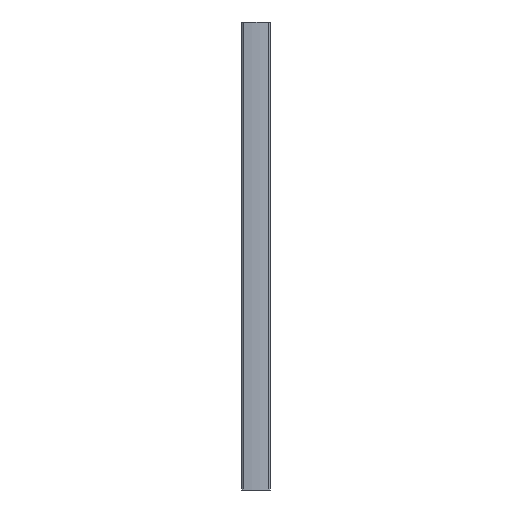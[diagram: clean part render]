
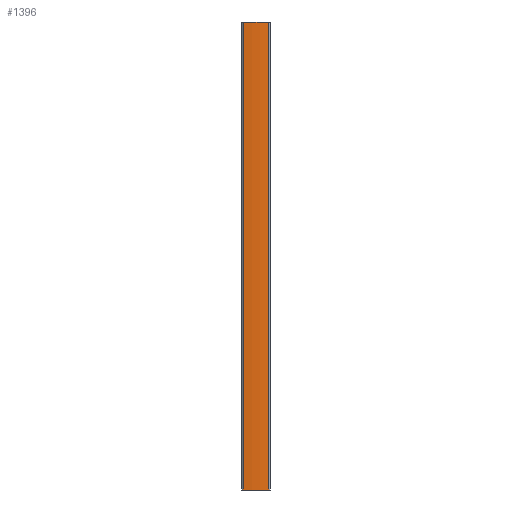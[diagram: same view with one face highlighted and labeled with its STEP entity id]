
A CAD part, left-side view. The second image highlights one B-rep face of the part: STEP entity #1396.
In plain terms, the highlighted cylindrical face has radius 200 mm (diameter 400 mm), a partial arc.
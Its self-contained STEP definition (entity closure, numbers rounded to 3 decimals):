
#201=CARTESIAN_POINT('',(173.,0.,0.));
#202=DIRECTION('',(0.,0.,1.));
#203=DIRECTION('',(-0.991,0.137,0.));
#204=AXIS2_PLACEMENT_3D('',#201,#202,#203);
#209=DIRECTION('',(0.,0.,-1.));
#210=VECTOR('',#209,1000.);
#211=CARTESIAN_POINT('',(-25.113,-27.411,0.));
#212=LINE('',#211,#210);
#216=CARTESIAN_POINT('',(173.,0.,-1000.));
#217=DIRECTION('',(0.,0.,1.));
#218=DIRECTION('',(-0.991,0.137,0.));
#219=AXIS2_PLACEMENT_3D('',#216,#217,#218);
#224=DIRECTION('',(0.,0.,-1.));
#225=VECTOR('',#224,1000.);
#226=CARTESIAN_POINT('',(-25.113,27.411,0.));
#227=LINE('',#226,#225);
#1205=CARTESIAN_POINT('',(-25.113,27.411,-1000.));
#1206=CARTESIAN_POINT('',(-25.113,-27.411,-1000.));
#1207=VERTEX_POINT('',#1205);
#1208=VERTEX_POINT('',#1206);
#1293=CARTESIAN_POINT('',(-25.113,27.411,0.));
#1294=CARTESIAN_POINT('',(-25.113,-27.411,0.));
#1295=VERTEX_POINT('',#1293);
#1296=VERTEX_POINT('',#1294);
#1381=CARTESIAN_POINT('',(173.,0.,5.));
#1382=DIRECTION('',(0.,0.,1.));
#1383=DIRECTION('',(1.,0.,0.));
#1384=AXIS2_PLACEMENT_3D('',#1381,#1382,#1383);
#1385=CYLINDRICAL_SURFACE('',#1384,200.);
#1387=ORIENTED_EDGE('',*,*,#1386,.T.);
#1389=ORIENTED_EDGE('',*,*,#1388,.T.);
#1391=ORIENTED_EDGE('',*,*,#1390,.F.);
#1393=ORIENTED_EDGE('',*,*,#1392,.F.);
#1394=EDGE_LOOP('',(#1387,#1389,#1391,#1393));
#1395=FACE_OUTER_BOUND('',#1394,.F.);
#205=CIRCLE('',#204,200.);
#220=CIRCLE('',#219,200.);
#1386=EDGE_CURVE('',#1295,#1296,#205,.T.);
#1388=EDGE_CURVE('',#1296,#1208,#212,.T.);
#1390=EDGE_CURVE('',#1207,#1208,#220,.T.);
#1392=EDGE_CURVE('',#1295,#1207,#227,.T.);
#1396=ADVANCED_FACE('',(#1395),#1385,.T.);
